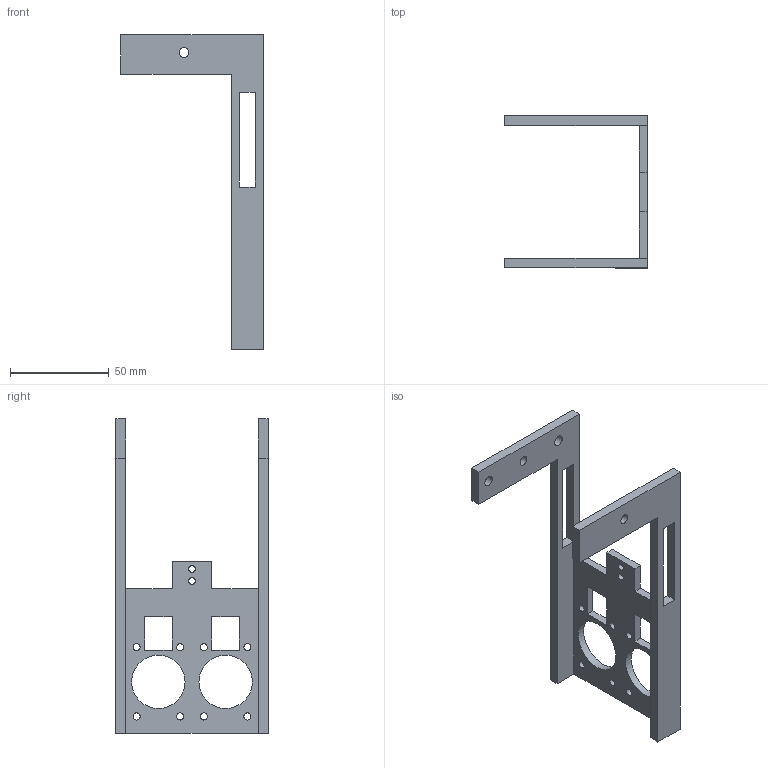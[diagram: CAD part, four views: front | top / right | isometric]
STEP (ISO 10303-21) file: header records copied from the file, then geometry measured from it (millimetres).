
FILE_DESCRIPTION(('Open CASCADE Model'),'2;1');
FILE_NAME('Open CASCADE Shape Model','2026-10-15T20:36:14',('Author'),( 'Open CASCADE'),'Open CASCADE STEP processor 7.9','Open CASCADE 7.9' ,'Unknown');
FILE_SCHEMA(('AUTOMOTIVE_DESIGN { 1 0 10303 214 1 1 1 1 }'));
Length unit declared in the file: millimetre
Products named in the file (1): Open CASCADE STEP translator 7.9 4
Bounding box: 72 x 77 x 159 mm (x, y, z)
Volume: 46183.6 mm3; surface area: 27603.1 mm2
Topology: 1 solids, 1 shells, 52 faces, 150 edges, 100 vertices
Faces by surface type: plane 36, cylinder 16
Full cylindrical faces by diameter (mm): 3.4 x2, 3.6 x8, 4.9 x2, 5.4 x2, 27 x2
Entity records: 3818 total; most frequent: CARTESIAN_POINT 747, DIRECTION 564, LINE 386, VECTOR 386, ORIENTED_EDGE 300, PCURVE 300, DEFINITIONAL_REPRESENTATION 300, EDGE_CURVE 150
